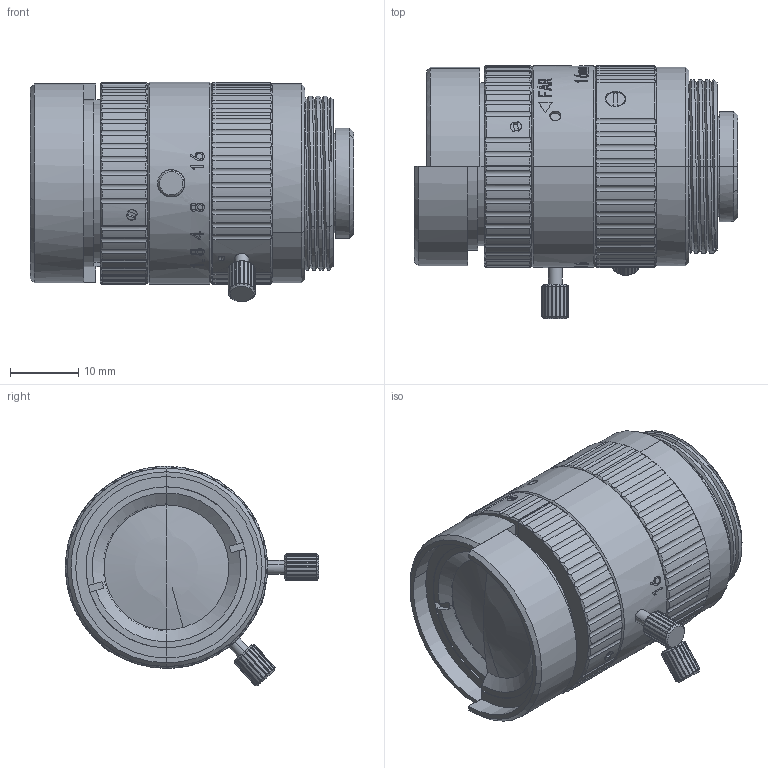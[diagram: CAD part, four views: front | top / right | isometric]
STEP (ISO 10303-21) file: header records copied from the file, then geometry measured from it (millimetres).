
FILE_DESCRIPTION (( 'STEP AP203' ), '1' );
FILE_NAME ('FAU1618MC.HR-H¶Ô°ë.STEP', '2025-07-05T07:48:47', ( '' ), ( '' ), 'SwSTEP 2.0', 'SolidWorks 2019', '' );
FILE_SCHEMA (( 'CONFIG_CONTROL_DESIGN' ));
Length unit declared in the file: millimetre
Products named in the file (1): FAU1618MC.HR-H勤圉
Bounding box: 47.23 x 36.95 x 32.04 mm (x, y, z)
Volume: 27035.8 mm3; surface area: 8951.7 mm2
Topology: 2 solids, 4 shells, 906 faces, 2533 edges, 1680 vertices
Faces by surface type: cylinder 368, plane 344, bspline 121, cone 63, sphere 10
Entity records: 45852 total; most frequent: CARTESIAN_POINT 24298, ORIENTED_EDGE 5042, DIRECTION 3727, EDGE_CURVE 2521, VERTEX_POINT 1678, AXIS2_PLACEMENT_3D 1401, EDGE_LOOP 969, VECTOR 925
